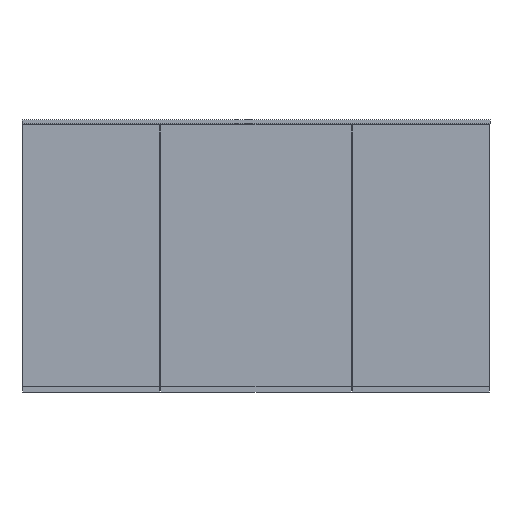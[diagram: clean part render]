
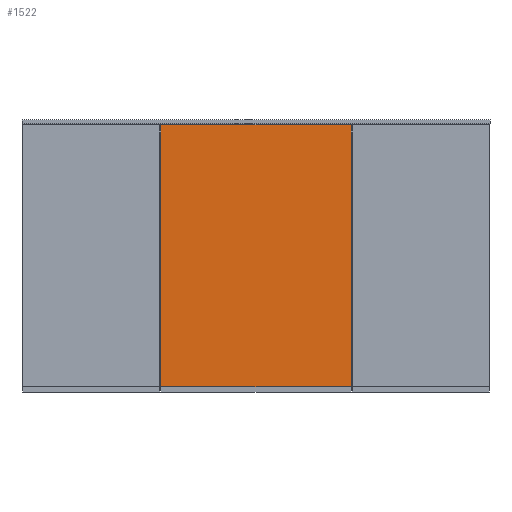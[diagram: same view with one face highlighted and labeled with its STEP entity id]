
A CAD part, front view. The second image highlights one B-rep face of the part: STEP entity #1522.
In plain terms, the highlighted planar face has unit normal (0, -1, 0).
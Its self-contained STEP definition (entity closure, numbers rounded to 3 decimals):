
#91=FACE_OUTER_BOUND('',#171,.T.);
#171=EDGE_LOOP('',(#1267,#1268,#1269,#1270));
#354=LINE('',#2340,#552);
#364=LINE('',#2361,#562);
#365=LINE('',#2363,#563);
#366=LINE('',#2364,#564);
#552=VECTOR('',#1937,10.);
#562=VECTOR('',#1955,10.);
#563=VECTOR('',#1956,10.);
#564=VECTOR('',#1957,10.);
#689=VERTEX_POINT('',#2333);
#692=VERTEX_POINT('',#2338);
#699=VERTEX_POINT('',#2360);
#700=VERTEX_POINT('',#2362);
#882=EDGE_CURVE('',#692,#689,#354,.T.);
#892=EDGE_CURVE('',#699,#689,#364,.T.);
#893=EDGE_CURVE('',#692,#700,#365,.T.);
#894=EDGE_CURVE('',#700,#699,#366,.T.);
#1267=ORIENTED_EDGE('',*,*,#892,.T.);
#1268=ORIENTED_EDGE('',*,*,#882,.F.);
#1269=ORIENTED_EDGE('',*,*,#893,.T.);
#1270=ORIENTED_EDGE('',*,*,#894,.T.);
#1368=PLANE('',#1620);
#1522=ADVANCED_FACE('',(#91),#1368,.T.);
#1620=AXIS2_PLACEMENT_3D('',#2359,#1953,#1954);
#1937=DIRECTION('',(1.,0.,0.));
#1953=DIRECTION('center_axis',(0.,-1.,0.));
#1954=DIRECTION('ref_axis',(0.,0.,-1.));
#1955=DIRECTION('',(0.,0.,1.));
#1956=DIRECTION('',(0.,0.,-1.));
#1957=DIRECTION('',(1.,0.,0.));
#2333=CARTESIAN_POINT('',(245.,-150.,672.));
#2338=CARTESIAN_POINT('',(-245.,-150.,672.));
#2340=CARTESIAN_POINT('',(0.,-150.,672.));
#2359=CARTESIAN_POINT('Origin',(0.,-150.,672.));
#2360=CARTESIAN_POINT('',(245.,-150.,0.));
#2361=CARTESIAN_POINT('',(245.,-150.,329.));
#2362=CARTESIAN_POINT('',(-245.,-150.,0.));
#2363=CARTESIAN_POINT('',(-245.,-150.,672.));
#2364=CARTESIAN_POINT('',(0.,-150.,0.));
